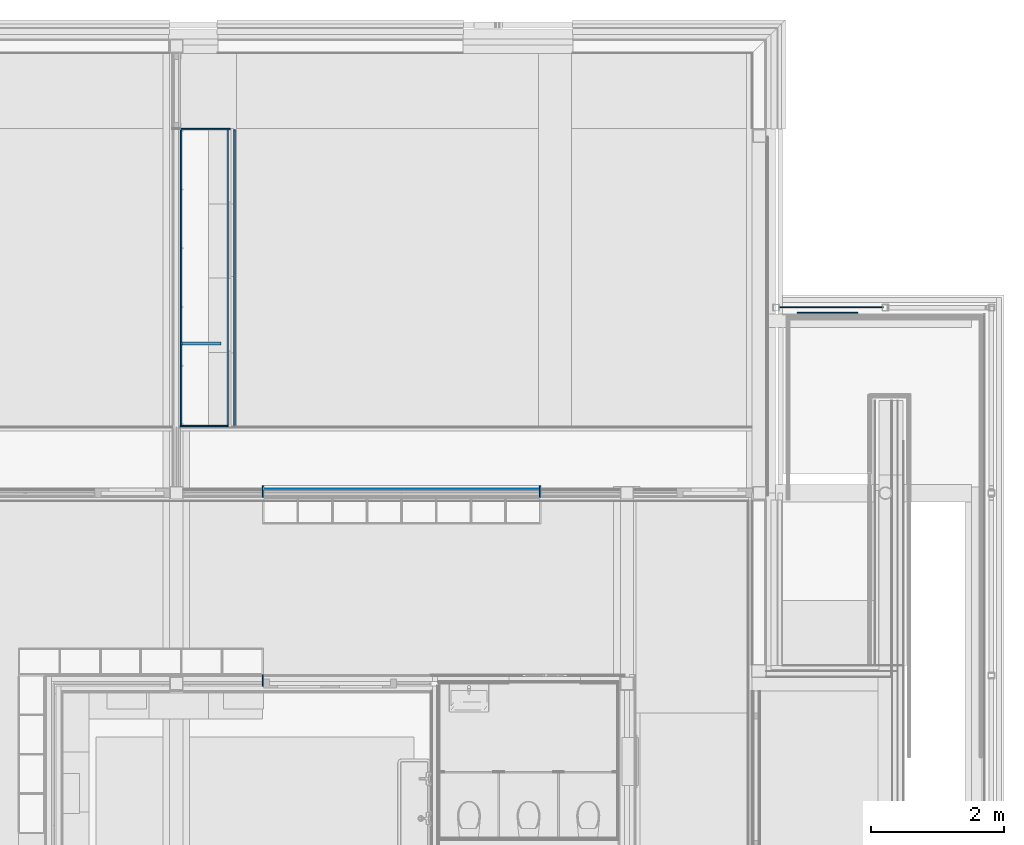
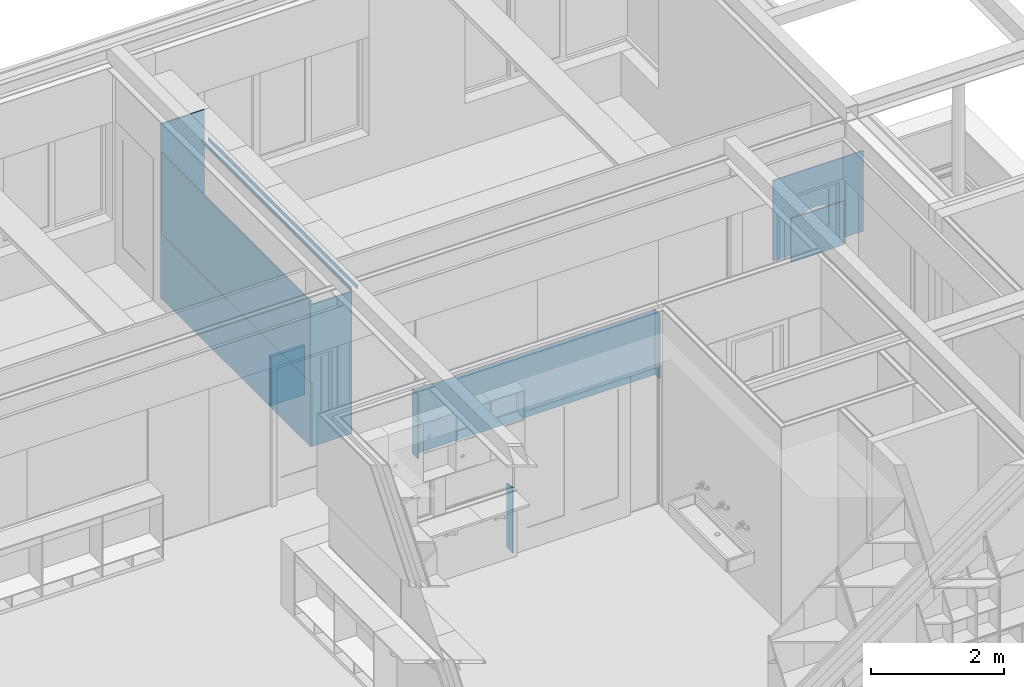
# One storey, part 43 of 137: 13 walls.
"""IFC2X3 building model written with IfcOpenShell, lengths in millimetres."""

from ifc_helpers import new_model, entity, si_unit, converted_unit, derived_unit, money_unit, direction, frame, origin_with_axes, place, context, subcontext, project, spatial, faceted_brep, material, type_object, element, save


model = new_model("IFC2X3")

# Units and contexts
model_context = context("Model", 3, precision=0.01, world=origin_with_axes(), true_north=direction((0.0, 1.0)))
body_context = subcontext(model_context, "Body", "Model", "MODEL_VIEW")
ifc_project = project(units=[si_unit("LENGTHUNIT", "METRE", prefix="MILLI"), si_unit("AREAUNIT", "SQUARE_METRE"), si_unit("VOLUMEUNIT", "CUBIC_METRE"), converted_unit("PLANEANGLEUNIT", "DEGREE", entity("IfcPlaneAngleMeasure", 0.0174532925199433), si_unit("PLANEANGLEUNIT", "RADIAN"), dimensions=[0, 0, 0, 0, 0, 0, 0]), money_unit("EUR"), converted_unit("TIMEUNIT", "Year", entity("IfcTimeMeasure", 31556926.0), si_unit("TIMEUNIT", "SECOND"), dimensions=[0, 0, 1, 0, 0, 0, 0]), si_unit("MASSUNIT", "GRAM", prefix="KILO"), si_unit("THERMODYNAMICTEMPERATUREUNIT", "DEGREE_CELSIUS"), si_unit("LUMINOUSINTENSITYUNIT", "LUMEN"), si_unit("ENERGYUNIT", "JOULE", prefix="MEGA"), derived_unit("THERMALCONDUCTANCEUNIT", [(si_unit("POWERUNIT", "WATT"), 1), (si_unit("LENGTHUNIT", "METRE"), -1), (si_unit("THERMODYNAMICTEMPERATUREUNIT", "KELVIN"), -1)]), derived_unit("SPECIFICHEATCAPACITYUNIT", [(si_unit("ENERGYUNIT", "JOULE"), 1), (si_unit("MASSUNIT", "GRAM", prefix="KILO"), -1), (si_unit("THERMODYNAMICTEMPERATUREUNIT", "KELVIN"), -1)]), derived_unit("MASSDENSITYUNIT", [(si_unit("MASSUNIT", "GRAM", prefix="KILO"), 1), (si_unit("VOLUMEUNIT", "CUBIC_METRE"), -1)])], contexts=[model_context])

# Site, building, storey
site_placement = place(None, origin_with_axes())
site = spatial("IfcSite", under=ifc_project, at=site_placement, Name="Site", CompositionType="ELEMENT")
building_placement = place(site_placement, origin_with_axes())
building = spatial("IfcBuilding", under=site, at=building_placement, Name="Naam gebouw", CompositionType="ELEMENT")
storey_placement = place(building_placement, frame((0.0, 0.0, 3960.0), z_axis=(0.0, 0.0, 1.0), x_axis=(1.0, 0.0, 0.0)))
storey = spatial("IfcBuildingStorey", under=building, at=storey_placement, Name="1e verdieping", CompositionType="ELEMENT", Elevation=3960.0)

# Walls
ifc_material_1 = material(Name="Kurk")
wall_type_1 = type_object("IfcWallType", Name="Kurk 6", PredefinedType="NOTDEFINED")
wall_1_placement = place(storey_placement, frame((19019.99913529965, 22387.47926947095, 0.0), z_axis=(0.0, 0.0, 1.0), x_axis=(1.0, 0.0, 0.0)))
element("IfcWall", 1, at=wall_1_placement, inside=storey, type_object=wall_type_1, material=ifc_material_1, Name="21_Wand-x", context=body_context, shape_type="Brep", body=[
    faceted_brep([(0.0, 6.000000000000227, 0.0), (4159.999904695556, 6.000000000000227, 0.0), (4159.999904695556, 0.0, 0.0), (0.0, 0.0, 0.0), (0.0, 6.000000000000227, 1180.0), (4159.999904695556, 6.000000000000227, 1180.0), (4159.999904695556, 0.0, 1180.0), (0.0, 0.0, 1180.0)], [[[0, 1, 2, 3]], [[4, 5, 1, 0]], [[2, 1, 5, 6]], [[3, 2, 6, 7]], [[4, 0, 3, 7]], [[7, 6, 5, 4]]]),
])
ifc_material_2 = material(Name="Hout - Multiplex")
wall_type_2 = type_object("IfcWallType", Name="Hout - Multiplex 20", PredefinedType="NOTDEFINED")
wall_2_placement = place(storey_placement, frame((18999.99880174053, 22262.48325312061, 0.0), z_axis=(0.0, 0.0, 1.0), x_axis=(1.906052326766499e-06, 0.9999999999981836, 0.0)))
element("IfcWall", 2, at=wall_2_placement, inside=storey, type_object=wall_type_2, material=ifc_material_2, Name="21_Wand-x", context=body_context, shape_type="Brep", body=[
    faceted_brep([(174.9999999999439, 0.0, 0.0), (174.9959972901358, -7.627676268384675e-09, 1180.000000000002), (174.9960354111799, -20.0000000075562, 1180.000000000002), (174.9999999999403, -19.99999999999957, 0.0), (0.0, 0.0, 0.0), (-0.00400270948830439, -0.0003335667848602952, 1180.000000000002), (-0.003964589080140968, -20.0000000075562, 1180.000000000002), (0.0, -19.99999999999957, 0.0)], [[[0, 1, 2, 3]], [[4, 5, 1, 0]], [[5, 6, 2, 1]], [[3, 2, 6, 7]], [[7, 4, 0, 3]], [[7, 6, 5, 4]]]),
])
wall_3_placement = place(storey_placement, frame((23199.9990399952, 22262.47925041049, 0.0), z_axis=(0.0, 0.0, 1.0), x_axis=(0.0, 1.0, 0.0)))
element("IfcWall", 3, at=wall_3_placement, inside=storey, type_object=wall_type_2, material=ifc_material_2, Name="21_Wand-x", context=body_context, shape_type="Brep", body=[
    faceted_brep([(174.9999999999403, 19.99999999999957, 0.0), (174.9999999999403, 19.99999999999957, 1180.000000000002), (174.9999999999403, 0.0, 1180.000000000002), (174.9999999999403, 0.0, 0.0), (0.0, 19.99999999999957, 0.0), (0.0, 19.99999999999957, 1180.000000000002), (0.0, 0.0, 1180.000000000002), (0.0, 0.0, 0.0)], [[[0, 1, 2, 3]], [[4, 5, 1, 0]], [[5, 6, 2, 1]], [[3, 2, 6, 7]], [[7, 4, 0, 3]], [[7, 6, 5, 4]]]),
])
wall_4_placement = place(storey_placement, frame((18512.49942456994, 27807.99984707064, 0.0), z_axis=(0.0, 0.0, 1.0), x_axis=(-1.0, 0.0, 0.0)))
element("IfcWall", 4, at=wall_4_placement, inside=storey, type_object=wall_type_2, material=ifc_material_2, Name="21_Wand-x", context=body_context, shape_type="Brep", body=[
    faceted_brep([(750.0, -19.99999999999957, 0.0), (750.0, -19.99999999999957, 1.99999999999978), (730.0000000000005, -19.99999999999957, 1.99999999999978), (730.0000000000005, -19.99999999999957, 1182.0), (750.0, -19.99999999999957, 1182.0), (750.0, -19.99999999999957, 3200.0), (0.0, -19.99999999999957, 3200.0), (0.0, -19.99999999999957, 0.0), (750.0, 0.0, 0.0), (750.0, 0.0, 1.99999999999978), (730.0000000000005, 0.0, 1.99999999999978), (730.0000000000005, 0.0, 1182.0), (750.0, 0.0, 1182.0), (750.0, 0.0, 3200.0), (0.0, 0.0, 3200.0), (0.0, 0.0, 0.0)], [[[0, 1, 2, 3, 4, 5, 6, 7]], [[8, 9, 1, 0]], [[10, 2, 1, 9]], [[11, 3, 2, 10]], [[12, 4, 3, 11]], [[5, 4, 12, 13]], [[14, 6, 5, 13]], [[14, 15, 7, 6]], [[7, 15, 8, 0]], [[11, 10, 9, 8, 15, 14, 13, 12]]]),
])
wall_5_placement = place(storey_placement, frame((17764.49942456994, 23347.99984707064, 1182.0), z_axis=(0.0, 0.0, 1.0), x_axis=(0.0, 1.0, 0.0)))
element("IfcWall", 5, at=wall_5_placement, inside=storey, type_object=wall_type_2, material=ifc_material_2, Name="21_Wand-x", context=body_context, shape_type="Brep", body=[
    faceted_brep([(0.0, 0.0, 1488.0), (0.0, 0.0, 1418.000000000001), (0.0, -19.99999999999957, 1418.000000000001), (0.0, -19.99999999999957, 1488.0), (4460.000000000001, 0.0, 0.0), (0.0, 0.0, 0.0), (4460.000000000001, 0.0, 1488.0), (0.0, -19.99999999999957, 0.0), (4460.000000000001, -19.99999999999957, 0.0), (4460.000000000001, -19.99999999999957, 1488.0)], [[[0, 1, 2, 3]], [[4, 5, 1, 0, 6]], [[5, 7, 2, 1]], [[3, 2, 7, 8, 9]], [[9, 6, 0, 3]], [[8, 7, 5, 4]], [[6, 9, 8, 4]]]),
])
wall_6_placement = place(storey_placement, frame((17762.49942456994, 23347.99984707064, 1.99999999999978), z_axis=(0.0, 0.0, 1.0), x_axis=(0.0, 1.0, 0.0)))
element("IfcWall", 6, at=wall_6_placement, inside=storey, type_object=wall_type_2, material=ifc_material_2, Name="21_Wand-x", context=body_context, shape_type="Brep", body=[
    faceted_brep([(4480.0, -19.99999999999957, 1180.0), (4480.0, 0.0, 1180.0), (-19.99999999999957, 0.0, 1180.0), (-19.99999999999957, -19.99999999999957, 1180.0), (4480.0, -19.99999999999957, 0.0), (4480.0, 0.0, 0.0), (-19.99999999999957, 0.0, 0.0), (-19.99999999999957, -19.99999999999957, 0.0)], [[[0, 1, 2, 3]], [[1, 0, 4, 5]], [[1, 5, 6, 2]], [[7, 3, 2, 6]], [[4, 0, 3, 7]], [[5, 4, 7, 6]]]),
])
wall_7_placement = place(storey_placement, frame((18464.49942456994, 23347.99984707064, 2600.0), z_axis=(0.0, 0.0, 1.0), x_axis=(0.0, 1.0, 0.0)))
element("IfcWall", 7, at=wall_7_placement, inside=storey, type_object=wall_type_2, material=ifc_material_2, Name="21_Wand-x", context=body_context, shape_type="Brep", body=[
    faceted_brep([(4460.000000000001, -19.99999999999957, 69.9999999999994), (4460.000000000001, 0.0, 69.9999999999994), (0.0, 0.0, 69.9999999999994), (0.0, -19.99999999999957, 69.9999999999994), (4460.000000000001, -19.99999999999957, 0.0), (4460.000000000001, 0.0, 0.0), (0.0, 0.0, 0.0), (0.0, -19.99999999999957, 0.0)], [[[0, 1, 2, 3]], [[1, 0, 4, 5]], [[1, 5, 6, 2]], [[7, 3, 2, 6]], [[4, 0, 3, 7]], [[5, 4, 7, 6]]]),
])
wall_8_placement = place(storey_placement, frame((18482.49942456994, 23347.99984707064, 0.0), z_axis=(0.0, 0.0, 1.0), x_axis=(-1.0, 0.0, 0.0)))
element("IfcWall", 8, at=wall_8_placement, inside=storey, type_object=wall_type_2, material=ifc_material_2, Name="21_Wand-x", context=body_context, shape_type="Brep", body=[
    faceted_brep([(719.9999999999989, 0.0, 0.0), (719.9999999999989, 0.0, 1.99999999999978), (699.9999999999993, 0.0, 1.99999999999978), (699.9999999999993, 0.0, 1182.0), (719.9999999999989, 0.0, 1182.0), (719.9999999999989, 0.0, 2600.0), (0.0, 0.0, 2600.0), (0.0, 0.0, 0.0), (719.9999999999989, 19.99999999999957, 0.0), (719.9999999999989, 19.99999999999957, 1.99999999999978), (699.9999999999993, 19.99999999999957, 1.99999999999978), (699.9999999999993, 19.99999999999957, 1182.0), (719.9999999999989, 19.99999999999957, 1182.0), (719.9999999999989, 19.99999999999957, 2600.0), (0.0, 19.99999999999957, 2600.0), (0.0, 19.99999999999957, 0.0)], [[[0, 1, 2, 3, 4, 5, 6, 7]], [[8, 9, 1, 0]], [[10, 2, 1, 9]], [[11, 3, 2, 10]], [[12, 4, 3, 11]], [[5, 4, 12, 13]], [[14, 6, 5, 13]], [[7, 6, 14, 15]], [[7, 15, 8, 0]], [[11, 10, 9, 8, 15, 14, 13, 12]]]),
])
wall_9_placement = place(storey_placement, frame((18569.49942456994, 23347.99984707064, 2600.0), z_axis=(0.0, 0.0, 1.0), x_axis=(0.0, 1.0, 0.0)))
element("IfcWall", 9, at=wall_9_placement, inside=storey, type_object=wall_type_2, material=ifc_material_2, Name="21_Wand-x", context=body_context, shape_type="Brep", body=[
    faceted_brep([(0.0, -19.99999999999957, 69.9999999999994), (4460.000000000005, -19.99999999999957, 69.9999999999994), (4460.000000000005, 0.0, 69.9999999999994), (0.0, 0.0, 69.9999999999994), (0.0, -19.99999999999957, 0.0), (4460.000000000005, -19.99999999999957, 0.0), (4460.000000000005, 0.0, 0.0), (0.0, 0.0, 0.0)], [[[0, 1, 2, 3]], [[4, 5, 1, 0]], [[2, 1, 5, 6]], [[3, 2, 6, 7]], [[4, 0, 3, 7]], [[7, 6, 5, 4]]]),
])
wall_10_placement = place(storey_placement, frame((19014.99945671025, 19409.99981121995, 0.0), z_axis=(0.0, 0.0, 1.0), x_axis=(0.0, 1.0, 0.0)))
element("IfcWall", 10, at=wall_10_placement, inside=storey, type_object=wall_type_2, material=ifc_material_2, Name="21_Wand-x", context=body_context, shape_type="Brep", body=[
    faceted_brep([(174.9999999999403, 19.99999999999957, 0.0), (174.9999999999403, 19.99999999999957, 1180.000000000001), (174.9999999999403, 0.0, 1180.000000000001), (174.9999999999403, 0.0, 0.0), (39.99999999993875, 19.99999999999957, 1200.0), (39.99999999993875, 19.99999999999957, 1180.000000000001), (0.0, 19.99999999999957, 0.0), (0.0, 19.99999999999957, 1200.000000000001), (39.99999999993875, 0.0, 1180.000000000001), (39.99999999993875, 0.0, 1200.0), (0.0, 0.0, 1200.000000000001), (0.0, 0.0, 0.0)], [[[0, 1, 2, 3]], [[4, 5, 1, 0, 6, 7]], [[5, 8, 2, 1]], [[2, 8, 9, 10, 11, 3]], [[11, 6, 0, 3]], [[5, 4, 9, 8]], [[10, 7, 6, 11]], [[10, 9, 4, 7]]]),
])
wall_type_3 = type_object("IfcWallType", Name="Hout - Multiplex 50", PredefinedType="NOTDEFINED")
wall_11_placement = place(storey_placement, frame((18373.49942456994, 24607.99984707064, 0.0), z_axis=(0.0, 0.0, 1.0), x_axis=(-1.0, 0.0, 0.0)))
element("IfcWall", 11, at=wall_11_placement, inside=storey, type_object=wall_type_3, material=ifc_material_2, Name="21_Wand-x", context=body_context, shape_type="Brep", body=[
    faceted_brep([(611.0000000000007, 0.0, 0.0), (611.0000000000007, 0.0, 1.99999999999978), (591.0000000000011, 0.0, 1.99999999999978), (591.0000000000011, 0.0, 900.0000000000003), (0.0, 0.0, 900.0000000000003), (0.0, 0.0, 0.0), (611.0000000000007, 50.00000000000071, 0.0), (611.0000000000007, 50.00000000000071, 1.99999999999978), (591.0000000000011, 50.00000000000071, 1.99999999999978), (591.0000000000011, 50.00000000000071, 900.0000000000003), (0.0, 50.00000000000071, 900.0000000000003), (0.0, 50.00000000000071, 0.0)], [[[0, 1, 2, 3, 4, 5]], [[6, 7, 1, 0]], [[8, 2, 1, 7]], [[8, 9, 3, 2]], [[4, 3, 9, 10]], [[5, 4, 10, 11]], [[5, 11, 6, 0]], [[9, 8, 7, 6, 11, 10]]]),
])
ifc_material_3 = material(Name="Glas")
wall_type_4 = type_object("IfcWallType", Name="Glas 20", PredefinedType="NOTDEFINED")
wall_12_placement = place(storey_placement, frame((27067.52078182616, 25036.97621976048, -909.9503092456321), z_axis=(0.0, 0.0, 1.0), x_axis=(1.0, 0.0, 0.0)))
element("IfcWall", 12, at=wall_12_placement, inside=storey, type_object=wall_type_4, material=ifc_material_3, Name="21_Wand-x", context=body_context, shape_type="Brep", body=[
    faceted_brep([(913.0290050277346, 19.99999999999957, 0.0), (913.0290050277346, 0.0, 0.0), (0.0, 0.0, 0.0), (0.0, 19.99999999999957, 0.0), (913.0290050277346, 19.99999999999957, 799.9999999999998), (913.0290050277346, 0.0, 799.9999999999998), (0.0, 0.0, 799.9999999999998), (0.0, 19.99999999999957, 799.9999999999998)], [[[0, 1, 2, 3]], [[0, 4, 5, 1]], [[1, 5, 6, 2]], [[3, 2, 6, 7]], [[4, 0, 3, 7]], [[5, 4, 7, 6]]]),
])
ifc_material_4 = material(Name="Metaal - Staal C")
wall_type_5 = type_object("IfcWallType", Name="Metaal - Staal C 15", PredefinedType="NOTDEFINED")
wall_13_placement = place(storey_placement, frame((28369.16650804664, 25124.97621976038, -850.0000000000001), z_axis=(0.0, 0.0, 1.0), x_axis=(-1.0, 0.0, 0.0)))
element("IfcWall", 13, at=wall_13_placement, inside=storey, type_object=wall_type_5, material=ifc_material_4, Name="21_Wand-x", context=body_context, shape_type="Brep", body=[
    faceted_brep([(435.4617857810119, -15.00000000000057, 236.5220727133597), (425.2541717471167, -15.00000000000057, 287.8392138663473), (421.8321162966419, -15.00000000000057, 340.049690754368), (425.2541717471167, -15.00000000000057, 392.2601676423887), (435.4617857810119, -15.00000000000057, 443.5773087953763), (452.2803032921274, -15.00000000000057, 493.1230637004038), (475.4219547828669, -15.00000000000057, 540.0496907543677), (504.4907801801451, -15.00000000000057, 583.5542623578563), (538.989403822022, -15.00000000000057, 622.8924032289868), (578.3275446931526, -15.00000000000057, 657.391026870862), (621.8321162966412, -15.00000000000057, 686.4598522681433), (668.7587433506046, -15.00000000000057, 709.6015037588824), (718.3044982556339, -15.00000000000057, 726.4200212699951), (769.6216394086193, -15.00000000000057, 736.6276353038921), (821.8321162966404, -15.00000000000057, 740.0496907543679), (874.0425931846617, -15.00000000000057, 736.6276353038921), (925.3597343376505, -15.00000000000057, 726.4200212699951), (974.9054892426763, -15.00000000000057, 709.6015037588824), (1021.83211629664, -15.00000000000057, 686.4598522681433), (1065.336687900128, -15.00000000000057, 657.391026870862), (1104.674828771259, -15.00000000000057, 622.8924032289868), (1139.173452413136, -15.00000000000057, 583.5542623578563), (1168.242277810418, -15.00000000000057, 540.0496907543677), (1191.383929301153, -15.00000000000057, 493.1230637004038), (1208.202446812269, -15.00000000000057, 443.5773087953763), (1218.410060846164, -15.00000000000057, 392.2601676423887), (1221.832116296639, -15.00000000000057, 340.049690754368), (1218.410060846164, -15.00000000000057, 287.8392138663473), (1208.202446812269, -15.00000000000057, 236.5220727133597), (1191.383929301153, -15.00000000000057, 186.9763178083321), (1168.242277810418, -15.00000000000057, 140.0496907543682), (1139.173452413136, -15.00000000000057, 96.54511915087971), (1104.674828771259, -15.00000000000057, 57.20697827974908), (1065.336687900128, -15.00000000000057, 22.70835463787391), (1031.351233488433, -15.00000000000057, 0.0), (1569.166508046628, -15.00000000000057, 0.0), (1569.166508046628, -15.00000000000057, 1474.999999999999), (19.16652389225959, -15.00000000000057, 1475.000000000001), (19.16652389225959, -15.00000000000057, 0.0), (612.3129991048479, -15.00000000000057, 0.0), (578.3275446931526, -15.00000000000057, 22.70835463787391), (538.989403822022, -15.00000000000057, 57.20697827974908), (504.4907801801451, -15.00000000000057, 96.54511915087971), (475.4219547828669, -15.00000000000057, 140.0496907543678), (452.2803032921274, -15.00000000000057, 186.9763178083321), (435.4617857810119, 0.0, 236.5220727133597), (425.2541717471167, 0.0, 287.8392138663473), (421.8321162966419, 0.0, 340.049690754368), (425.2541717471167, 0.0, 392.2601676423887), (435.4617857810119, 0.0, 443.5773087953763), (452.2803032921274, 0.0, 493.1230637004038), (475.4219547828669, 0.0, 540.0496907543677), (504.4907801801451, 0.0, 583.5542623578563), (538.989403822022, 0.0, 622.8924032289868), (578.3275446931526, 0.0, 657.391026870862), (621.8321162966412, 0.0, 686.4598522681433), (668.7587433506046, 0.0, 709.6015037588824), (718.3044982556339, 0.0, 726.4200212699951), (769.6216394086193, 0.0, 736.6276353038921), (821.8321162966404, 0.0, 740.0496907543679), (874.0425931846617, 0.0, 736.6276353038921), (925.3597343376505, 0.0, 726.4200212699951), (974.9054892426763, 0.0, 709.6015037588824), (1021.83211629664, 0.0, 686.4598522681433), (1065.336687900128, 0.0, 657.391026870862), (1104.674828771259, 0.0, 622.8924032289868), (1139.173452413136, 0.0, 583.5542623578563), (1168.242277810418, 0.0, 540.0496907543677), (1191.383929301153, 0.0, 493.1230637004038), (1208.202446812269, 0.0, 443.5773087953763), (1218.410060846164, 0.0, 392.2601676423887), (1221.832116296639, 0.0, 340.049690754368), (1218.410060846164, 0.0, 287.8392138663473), (1208.202446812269, 0.0, 236.5220727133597), (1191.383929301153, 0.0, 186.9763178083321), (1168.242277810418, 0.0, 140.0496907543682), (1139.173452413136, 0.0, 96.54511915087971), (1104.674828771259, 0.0, 57.20697827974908), (1065.336687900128, 0.0, 22.70835463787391), (1031.351233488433, 0.0, 0.0), (1569.166508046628, 0.0, 0.0), (1569.166508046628, 0.0, 1474.999999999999), (19.16652389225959, 0.0, 1475.000000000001), (19.16652389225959, 0.0, 0.0), (612.3129991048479, 0.0, 0.0), (578.3275446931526, 0.0, 22.70835463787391), (538.989403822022, 0.0, 57.20697827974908), (504.4907801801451, 0.0, 96.54511915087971), (475.4219547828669, 0.0, 140.0496907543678), (452.2803032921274, 0.0, 186.9763178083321)], [[[0, 1, 2, 3, 4, 5, 6, 7, 8, 9, 10, 11, 12, 13, 14, 15, 16, 17, 18, 19, 20, 21, 22, 23, 24, 25, 26, 27, 28, 29, 30, 31, 32, 33, 34, 35, 36, 37, 38, 39, 40, 41, 42, 43, 44]], [[1, 0, 45, 46]], [[2, 1, 46, 47]], [[3, 2, 47, 48]], [[4, 3, 48, 49]], [[5, 4, 49, 50]], [[6, 5, 50, 51]], [[7, 6, 51, 52]], [[8, 7, 52, 53]], [[9, 8, 53, 54]], [[10, 9, 54, 55]], [[11, 10, 55, 56]], [[12, 11, 56, 57]], [[13, 12, 57, 58]], [[14, 13, 58, 59]], [[15, 14, 59, 60]], [[16, 15, 60, 61]], [[17, 16, 61, 62]], [[18, 17, 62, 63]], [[19, 18, 63, 64]], [[20, 19, 64, 65]], [[21, 20, 65, 66]], [[22, 21, 66, 67]], [[23, 22, 67, 68]], [[24, 23, 68, 69]], [[25, 24, 69, 70]], [[26, 25, 70, 71]], [[27, 26, 71, 72]], [[28, 27, 72, 73]], [[29, 28, 73, 74]], [[30, 29, 74, 75]], [[31, 30, 75, 76]], [[32, 31, 76, 77]], [[33, 32, 77, 78]], [[79, 34, 33, 78]], [[34, 79, 80, 35]], [[35, 80, 81, 36]], [[36, 81, 82, 37]], [[82, 83, 38, 37]], [[84, 39, 38, 83]], [[40, 39, 84, 85]], [[41, 40, 85, 86]], [[42, 41, 86, 87]], [[43, 42, 87, 88]], [[44, 43, 88, 89]], [[0, 44, 89, 45]], [[85, 84, 83, 82, 81, 80, 79, 78, 77, 76, 75, 74, 73, 72, 71, 70, 69, 68, 67, 66, 65, 64, 63, 62, 61, 60, 59, 58, 57, 56, 55, 54, 53, 52, 51, 50, 49, 48, 47, 46, 45, 89, 88, 87, 86]]]),
    faceted_brep([(0.0, -15.00000000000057, 0.0), (14.16652389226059, -15.00000000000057, 0.0), (14.16652389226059, -15.00000000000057, 1475.000000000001), (0.0, -15.00000000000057, 1474.999999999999), (0.0, 0.0, 0.0), (14.16652389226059, 0.0, 0.0), (14.16652389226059, 0.0, 1475.000000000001), (0.0, 0.0, 1474.999999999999)], [[[0, 1, 2, 3]], [[4, 5, 1, 0]], [[5, 6, 2, 1]], [[3, 2, 6, 7]], [[4, 0, 3, 7]], [[7, 6, 5, 4]]]),
])

save(model, "model.ifc")
